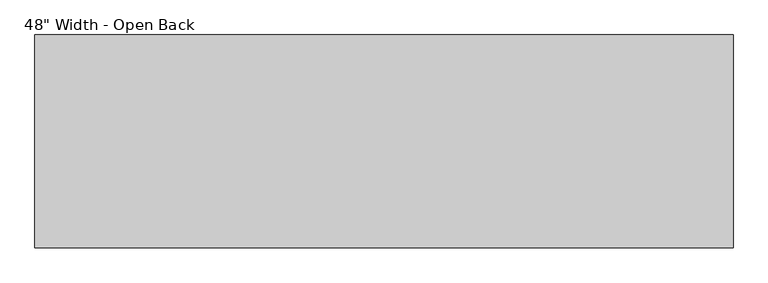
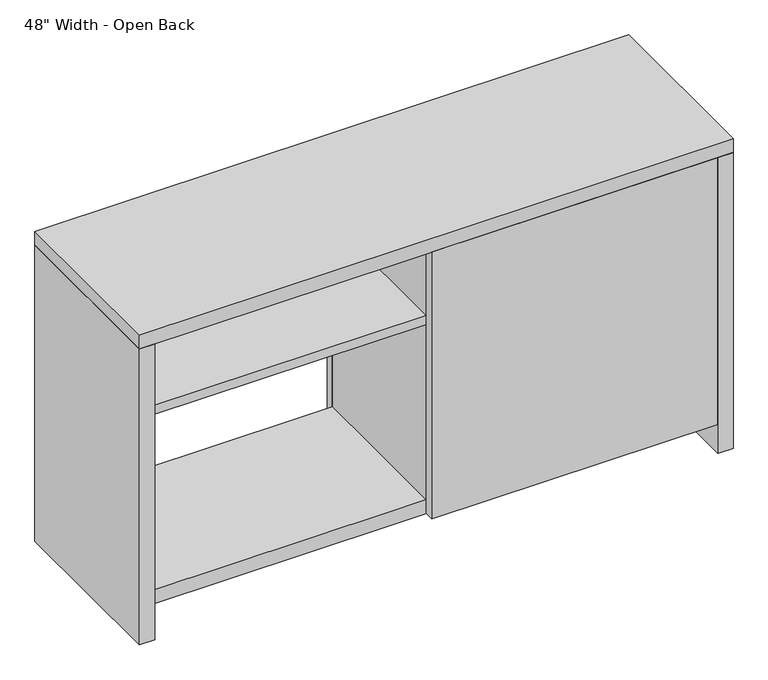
"""IFC4 building model written with IfcOpenShell, lengths in millimetres: furniture geometry."""

from ifc_helpers import new_model, si_unit, frame, origin, origin_with_axes, place, context, project, spatial, polyline, outline, extrude, source, transform, mapped, element, save


def furniture_9d0f7e14(model_context):
    return source(origin(), model_context, "Body", "SweptSolid", [
        extrude(outline(polyline([(-9.525, 371.475), (284.1625, 371.475), (284.1625, 352.425), (-9.525, 352.425), (-9.525, 371.475)])), frame((0.0, 0.0, 63.5), z_axis=(0.0, 0.0, 1.0), x_axis=(1.0, 0.0, 0.0)), (0.0, 0.0, 1.0), 407.9875),
        extrude(outline(polyline([(577.85, 371.475), (577.85, 352.425), (284.1625, 352.425), (284.1625, 371.475), (577.85, 371.475)])), frame((0.0, 0.0, 63.5), z_axis=(0.0, 0.0, 1.0), x_axis=(1.0, 0.0, 0.0)), (0.0, 0.0, 1.0), 407.9875),
        extrude(outline(polyline([(352.425, 471.4875), (352.425, 642.9375), (358.775, 642.9375), (358.775, 628.65), (371.475, 628.65), (371.475, 471.4875), (352.425, 471.4875)])), frame((-9.525, 0.0, 0.0), z_axis=(1.0, 0.0, 0.0), x_axis=(0.0, 1.0, 0.0)), (0.0, 0.0, 1.0), 587.375),
        extrude(outline(polyline([(577.85, 0.0), (-9.525, 0.0), (-9.525, 19.05), (577.85, 19.05), (577.85, 0.0)])), frame((0.0, 0.0, 63.5), z_axis=(0.0, 0.0, 1.0), x_axis=(1.0, 0.0, 0.0)), (0.0, 0.0, 1.0), 579.4375),
        extrude(outline(polyline([(642.9375, -9.525), (493.7125, -9.525), (493.7125, -577.85), (474.6625, -577.85), (474.6625, -9.525), (93.6625, -9.525), (93.6625, 9.525), (474.6625, 9.525), (474.6625, 558.8), (93.6625, 558.8), (93.6625, 577.85), (642.9375, 577.85), (642.9375, 558.8), (493.7125, 558.8), (493.7125, 9.525), (642.9375, 9.525), (642.9375, -9.525)])), frame((0.0, 19.05, 0.0), z_axis=(0.0, 1.0, 0.0), x_axis=(0.0, 0.0, 1.0)), (0.0, 0.0, 1.0), 333.375),
        extrude(outline(polyline([(-609.6, 0.0), (-609.6, 371.475), (-577.85, 371.475), (-577.85, 0.0), (-609.6, 0.0)])), origin_with_axes(), (0.0, 0.0, 1.0), 642.9375),
        extrude(outline(polyline([(609.6, 371.475), (609.6, 0.0), (577.85, 0.0), (577.85, 371.475), (609.6, 371.475)])), origin_with_axes(), (0.0, 0.0, 1.0), 642.9375),
        extrude(outline(polyline([(577.85, 19.05), (-577.85, 19.05), (-577.85, 352.425), (577.85, 352.425), (577.85, 19.05)])), frame((0.0, 0.0, 63.5), z_axis=(0.0, 0.0, 1.0), x_axis=(1.0, 0.0, 0.0)), (0.0, 0.0, 1.0), 30.1625),
        extrude(outline(polyline([(609.6, 0.0), (-609.6, 0.0), (-609.6, 371.475), (609.6, 371.475), (609.6, 0.0)])), frame((0.0, 0.0, 642.9375), z_axis=(0.0, 0.0, 1.0), x_axis=(1.0, 0.0, 0.0)), (0.0, 0.0, 1.0), 30.1625),
    ])


if __name__ == "__main__":
    model = new_model("IFC4")
    model_context = context("Model", 3, world=origin())
    ifc_project = project(units=[si_unit("LENGTHUNIT", "METRE", prefix="MILLI")], contexts=[model_context])
    site = spatial("IfcSite", under=ifc_project)
    building = spatial("IfcBuilding", under=site)
    placement = place(None, origin())
    furniture_shape = furniture_9d0f7e14(model_context)
    element("IfcFurniture", 1, ObjectType="Haworth_XSeries-Active-Credenza : 48\" Width - Open Back", at=placement, inside=building, context=model_context, shape_type="MappedRepresentation", body=[
        mapped(furniture_shape, transform((0.0, 0.0, 0.0), x_axis=(1.0, 0.0, 0.0), y_axis=(0.0, 1.0, 0.0), z_axis=(0.0, 0.0, 1.0))),
    ])
    save(model, "model.ifc")
